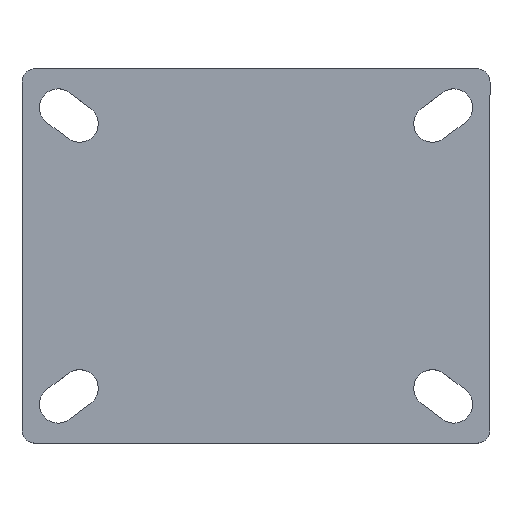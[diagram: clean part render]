
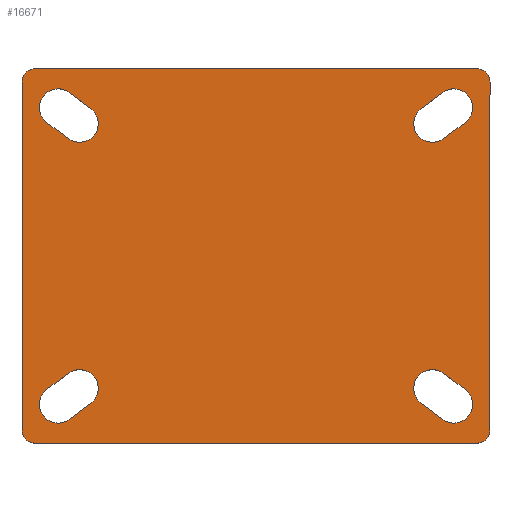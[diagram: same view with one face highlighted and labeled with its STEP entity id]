
A CAD part, top view. The second image highlights one B-rep face of the part: STEP entity #16671.
In plain terms, the highlighted planar face has unit normal (0, 0, 1).
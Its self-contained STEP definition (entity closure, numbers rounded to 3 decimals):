
#1188=FACE_BOUND('',#6125,.T.);
#1189=FACE_BOUND('',#6126,.T.);
#1190=FACE_BOUND('',#6127,.T.);
#1191=FACE_BOUND('',#6128,.T.);
#2636=LINE('',#28369,#4161);
#2639=LINE('',#28377,#4164);
#2642=LINE('',#28385,#4167);
#2645=LINE('',#28393,#4170);
#2648=LINE('',#28401,#4173);
#2651=LINE('',#28409,#4176);
#2654=LINE('',#28417,#4179);
#2657=LINE('',#28425,#4182);
#2661=LINE('',#28437,#4186);
#2664=LINE('',#28445,#4189);
#2667=LINE('',#28453,#4192);
#2670=LINE('',#28460,#4195);
#4161=VECTOR('',#20312,10.);
#4164=VECTOR('',#20321,10.);
#4167=VECTOR('',#20330,10.);
#4170=VECTOR('',#20339,10.);
#4173=VECTOR('',#20348,10.);
#4176=VECTOR('',#20357,10.);
#4179=VECTOR('',#20366,10.);
#4182=VECTOR('',#20375,10.);
#4186=VECTOR('',#20389,10.);
#4189=VECTOR('',#20398,10.);
#4192=VECTOR('',#20407,10.);
#4195=VECTOR('',#20416,10.);
#5140=FACE_OUTER_BOUND('',#6124,.T.);
#6124=EDGE_LOOP('',(#15080,#15081,#15082,#15083,#15084,#15085,#15086,#15087));
#6125=EDGE_LOOP('',(#15088,#15089,#15090,#15091));
#6126=EDGE_LOOP('',(#15092,#15093,#15094,#15095));
#6127=EDGE_LOOP('',(#15096,#15097,#15098,#15099));
#6128=EDGE_LOOP('',(#15100,#15101,#15102,#15103));
#6352=CIRCLE('',#17415,7.);
#6353=CIRCLE('',#17418,7.);
#6354=CIRCLE('',#17421,7.);
#6355=CIRCLE('',#17424,7.);
#6356=CIRCLE('',#17427,7.);
#6357=CIRCLE('',#17430,7.);
#6358=CIRCLE('',#17433,7.);
#6359=CIRCLE('',#17436,7.);
#6360=CIRCLE('',#17438,5.);
#6361=CIRCLE('',#17441,5.);
#6362=CIRCLE('',#17444,5.);
#6363=CIRCLE('',#17447,5.);
#7936=VERTEX_POINT('',#28366);
#7937=VERTEX_POINT('',#28368);
#7938=VERTEX_POINT('',#28372);
#7939=VERTEX_POINT('',#28376);
#7940=VERTEX_POINT('',#28382);
#7941=VERTEX_POINT('',#28384);
#7942=VERTEX_POINT('',#28388);
#7943=VERTEX_POINT('',#28392);
#7944=VERTEX_POINT('',#28398);
#7945=VERTEX_POINT('',#28400);
#7946=VERTEX_POINT('',#28404);
#7947=VERTEX_POINT('',#28408);
#7948=VERTEX_POINT('',#28414);
#7949=VERTEX_POINT('',#28416);
#7950=VERTEX_POINT('',#28420);
#7951=VERTEX_POINT('',#28424);
#7952=VERTEX_POINT('',#28430);
#7953=VERTEX_POINT('',#28432);
#7954=VERTEX_POINT('',#28436);
#7955=VERTEX_POINT('',#28440);
#7956=VERTEX_POINT('',#28444);
#7957=VERTEX_POINT('',#28448);
#7958=VERTEX_POINT('',#28452);
#7959=VERTEX_POINT('',#28456);
#10309=EDGE_CURVE('',#7937,#7936,#2636,.T.);
#10311=EDGE_CURVE('',#7938,#7937,#6352,.T.);
#10313=EDGE_CURVE('',#7939,#7938,#2639,.T.);
#10315=EDGE_CURVE('',#7936,#7939,#6353,.T.);
#10317=EDGE_CURVE('',#7941,#7940,#2642,.T.);
#10319=EDGE_CURVE('',#7942,#7941,#6354,.T.);
#10321=EDGE_CURVE('',#7943,#7942,#2645,.T.);
#10323=EDGE_CURVE('',#7940,#7943,#6355,.T.);
#10325=EDGE_CURVE('',#7945,#7944,#2648,.T.);
#10327=EDGE_CURVE('',#7946,#7945,#6356,.T.);
#10329=EDGE_CURVE('',#7947,#7946,#2651,.T.);
#10331=EDGE_CURVE('',#7944,#7947,#6357,.T.);
#10333=EDGE_CURVE('',#7949,#7948,#2654,.T.);
#10335=EDGE_CURVE('',#7950,#7949,#6358,.T.);
#10337=EDGE_CURVE('',#7951,#7950,#2657,.T.);
#10339=EDGE_CURVE('',#7948,#7951,#6359,.T.);
#10341=EDGE_CURVE('',#7953,#7952,#6360,.T.);
#10343=EDGE_CURVE('',#7954,#7953,#2661,.T.);
#10345=EDGE_CURVE('',#7955,#7954,#6361,.T.);
#10347=EDGE_CURVE('',#7956,#7955,#2664,.T.);
#10349=EDGE_CURVE('',#7957,#7956,#6362,.T.);
#10351=EDGE_CURVE('',#7958,#7957,#2667,.T.);
#10353=EDGE_CURVE('',#7959,#7958,#6363,.T.);
#10355=EDGE_CURVE('',#7952,#7959,#2670,.T.);
#15080=ORIENTED_EDGE('',*,*,#10355,.T.);
#15081=ORIENTED_EDGE('',*,*,#10353,.T.);
#15082=ORIENTED_EDGE('',*,*,#10351,.T.);
#15083=ORIENTED_EDGE('',*,*,#10349,.T.);
#15084=ORIENTED_EDGE('',*,*,#10347,.T.);
#15085=ORIENTED_EDGE('',*,*,#10345,.T.);
#15086=ORIENTED_EDGE('',*,*,#10343,.T.);
#15087=ORIENTED_EDGE('',*,*,#10341,.T.);
#15088=ORIENTED_EDGE('',*,*,#10339,.T.);
#15089=ORIENTED_EDGE('',*,*,#10337,.T.);
#15090=ORIENTED_EDGE('',*,*,#10335,.T.);
#15091=ORIENTED_EDGE('',*,*,#10333,.T.);
#15092=ORIENTED_EDGE('',*,*,#10331,.T.);
#15093=ORIENTED_EDGE('',*,*,#10329,.T.);
#15094=ORIENTED_EDGE('',*,*,#10327,.T.);
#15095=ORIENTED_EDGE('',*,*,#10325,.T.);
#15096=ORIENTED_EDGE('',*,*,#10323,.T.);
#15097=ORIENTED_EDGE('',*,*,#10321,.T.);
#15098=ORIENTED_EDGE('',*,*,#10319,.T.);
#15099=ORIENTED_EDGE('',*,*,#10317,.T.);
#15100=ORIENTED_EDGE('',*,*,#10315,.T.);
#15101=ORIENTED_EDGE('',*,*,#10313,.T.);
#15102=ORIENTED_EDGE('',*,*,#10311,.T.);
#15103=ORIENTED_EDGE('',*,*,#10309,.T.);
#15796=PLANE('',#17449);
#16671=ADVANCED_FACE('',(#5140,#1188,#1189,#1190,#1191),#15796,.T.);
#17415=AXIS2_PLACEMENT_3D('',#28373,#20316,#20317);
#17418=AXIS2_PLACEMENT_3D('',#28380,#20325,#20326);
#17421=AXIS2_PLACEMENT_3D('',#28389,#20334,#20335);
#17424=AXIS2_PLACEMENT_3D('',#28396,#20343,#20344);
#17427=AXIS2_PLACEMENT_3D('',#28405,#20352,#20353);
#17430=AXIS2_PLACEMENT_3D('',#28412,#20361,#20362);
#17433=AXIS2_PLACEMENT_3D('',#28421,#20370,#20371);
#17436=AXIS2_PLACEMENT_3D('',#28428,#20379,#20380);
#17438=AXIS2_PLACEMENT_3D('',#28433,#20384,#20385);
#17441=AXIS2_PLACEMENT_3D('',#28441,#20393,#20394);
#17444=AXIS2_PLACEMENT_3D('',#28449,#20402,#20403);
#17447=AXIS2_PLACEMENT_3D('',#28457,#20411,#20412);
#17449=AXIS2_PLACEMENT_3D('',#28461,#20417,#20418);
#20312=DIRECTION('',(0.8,-0.6,0.));
#20316=DIRECTION('center_axis',(0.,0.,
-1.));
#20317=DIRECTION('ref_axis',(-0.6,-0.8,0.));
#20321=DIRECTION('',(-0.8,0.6,0.));
#20325=DIRECTION('center_axis',(0.,0.,
-1.));
#20326=DIRECTION('ref_axis',(0.6,0.8,0.));
#20330=DIRECTION('',(-0.8,-0.6,0.));
#20334=DIRECTION('center_axis',(0.,0.,
-1.));
#20335=DIRECTION('ref_axis',(-0.6,0.8,0.));
#20339=DIRECTION('',(0.8,0.6,0.));
#20343=DIRECTION('center_axis',(0.,0.,
-1.));
#20344=DIRECTION('ref_axis',(0.6,-0.8,0.));
#20348=DIRECTION('',(-0.8,0.6,0.));
#20352=DIRECTION('center_axis',(0.,0.,
-1.));
#20353=DIRECTION('ref_axis',(0.6,0.8,0.));
#20357=DIRECTION('',(0.8,-0.6,0.));
#20361=DIRECTION('center_axis',(0.,0.,
-1.));
#20362=DIRECTION('ref_axis',(-0.6,-0.8,0.));
#20366=DIRECTION('',(-0.8,-0.6,0.));
#20370=DIRECTION('center_axis',(0.,0.,
-1.));
#20371=DIRECTION('ref_axis',(-0.6,0.8,0.));
#20375=DIRECTION('',(0.8,0.6,0.));
#20379=DIRECTION('center_axis',(0.,0.,
-1.));
#20380=DIRECTION('ref_axis',(0.6,-0.8,0.));
#20384=DIRECTION('center_axis',(0.,0.,
1.));
#20385=DIRECTION('ref_axis',(-1.,0.,0.));
#20389=DIRECTION('',(0.,-1.,0.));
#20393=DIRECTION('center_axis',(0.,0.,
1.));
#20394=DIRECTION('ref_axis',(0.,1.,0.));
#20398=DIRECTION('',(-1.,0.,0.));
#20402=DIRECTION('center_axis',(0.,0.,
1.));
#20403=DIRECTION('ref_axis',(1.,0.,0.));
#20407=DIRECTION('',(0.,1.,0.));
#20411=DIRECTION('center_axis',(0.,0.,
1.));
#20412=DIRECTION('ref_axis',(0.,-1.,0.));
#20416=DIRECTION('',(1.,0.,0.));
#20417=DIRECTION('center_axis',(0.,0.,
1.));
#20418=DIRECTION('ref_axis',(1.,0.,0.));
#28366=CARTESIAN_POINT('',(78.2,-49.9,10.));
#28368=CARTESIAN_POINT('',(70.2,-43.9,10.));
#28369=CARTESIAN_POINT('',(70.2,-43.9,10.));
#28372=CARTESIAN_POINT('',(61.8,-55.1,10.));
#28373=CARTESIAN_POINT('Origin',(66.,-49.5,10.));
#28376=CARTESIAN_POINT('',(69.8,-61.1,10.));
#28377=CARTESIAN_POINT('',(69.8,-61.1,10.));
#28380=CARTESIAN_POINT('Origin',(74.,-55.5,10.));
#28382=CARTESIAN_POINT('',(70.2,43.9,10.));
#28384=CARTESIAN_POINT('',(78.2,49.9,10.));
#28385=CARTESIAN_POINT('',(78.2,49.9,10.));
#28388=CARTESIAN_POINT('',(69.8,61.1,10.));
#28389=CARTESIAN_POINT('Origin',(74.,55.5,10.));
#28392=CARTESIAN_POINT('',(61.8,55.1,10.));
#28393=CARTESIAN_POINT('',(61.8,55.1,10.));
#28396=CARTESIAN_POINT('Origin',(66.,49.5,10.));
#28398=CARTESIAN_POINT('',(-78.2,49.9,10.));
#28400=CARTESIAN_POINT('',(-70.2,43.9,10.));
#28401=CARTESIAN_POINT('',(-70.2,43.9,10.));
#28404=CARTESIAN_POINT('',(-61.8,55.1,10.));
#28405=CARTESIAN_POINT('Origin',(-66.,49.5,10.));
#28408=CARTESIAN_POINT('',(-69.8,61.1,10.));
#28409=CARTESIAN_POINT('',(-69.8,61.1,10.));
#28412=CARTESIAN_POINT('Origin',(-74.,55.5,10.));
#28414=CARTESIAN_POINT('',(-69.8,-61.1,10.));
#28416=CARTESIAN_POINT('',(-61.8,-55.1,10.));
#28417=CARTESIAN_POINT('',(-61.8,-55.1,10.));
#28420=CARTESIAN_POINT('',(-70.2,-43.9,10.));
#28421=CARTESIAN_POINT('Origin',(-66.,-49.5,10.));
#28424=CARTESIAN_POINT('',(-78.2,-49.9,10.));
#28425=CARTESIAN_POINT('',(-78.2,-49.9,10.));
#28428=CARTESIAN_POINT('Origin',(-74.,-55.5,10.));
#28430=CARTESIAN_POINT('',(-82.5,-70.,10.));
#28432=CARTESIAN_POINT('',(-87.5,-65.,10.));
#28433=CARTESIAN_POINT('Origin',(-82.5,-65.,10.));
#28436=CARTESIAN_POINT('',(-87.5,65.,10.));
#28437=CARTESIAN_POINT('',(-87.5,65.,10.));
#28440=CARTESIAN_POINT('',(-82.5,70.,10.));
#28441=CARTESIAN_POINT('Origin',(-82.5,65.,10.));
#28444=CARTESIAN_POINT('',(82.5,70.,10.));
#28445=CARTESIAN_POINT('',(82.5,70.,10.));
#28448=CARTESIAN_POINT('',(87.5,65.,10.));
#28449=CARTESIAN_POINT('Origin',(82.5,65.,10.));
#28452=CARTESIAN_POINT('',(87.5,-65.,10.));
#28453=CARTESIAN_POINT('',(87.5,-65.,10.));
#28456=CARTESIAN_POINT('',(82.5,-70.,10.));
#28457=CARTESIAN_POINT('Origin',(82.5,-65.,10.));
#28460=CARTESIAN_POINT('',(-82.5,-70.,10.));
#28461=CARTESIAN_POINT('Origin',(0.,0.,
10.));
